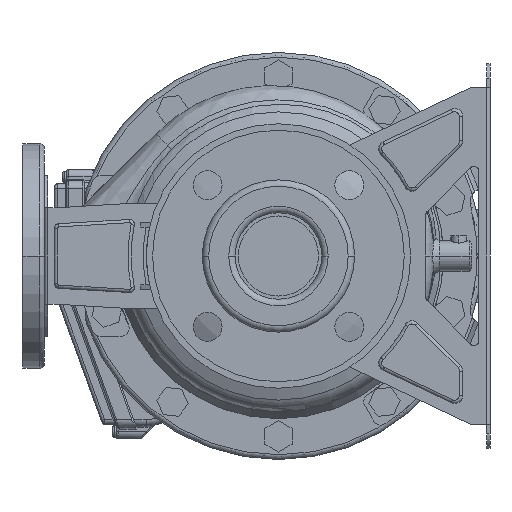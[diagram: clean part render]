
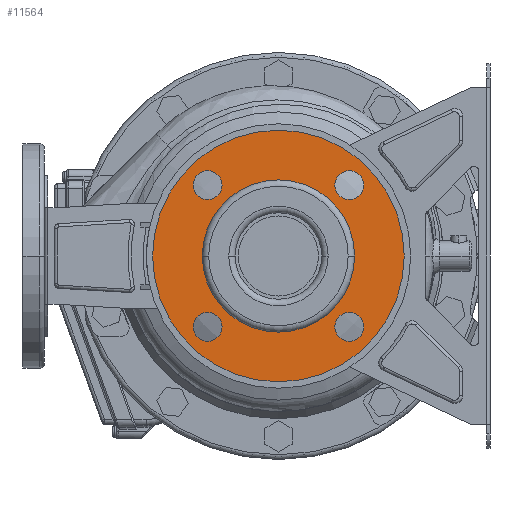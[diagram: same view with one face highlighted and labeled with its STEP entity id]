
A CAD part, left-side view. The second image highlights one B-rep face of the part: STEP entity #11564.
In plain terms, the highlighted planar face has unit normal (-1, 0, 0).
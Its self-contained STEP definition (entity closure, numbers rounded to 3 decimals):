
#10897=CARTESIAN_POINT('',(12.,0.,0.));
#10898=DIRECTION('',(-1.,0.,0.));
#10899=DIRECTION('',(0.,1.,0.));
#10900=AXIS2_PLACEMENT_3D('',#10897,#10898,#10899);
#10905=CARTESIAN_POINT('',(12.,0.,0.));
#10906=DIRECTION('',(1.,0.,0.));
#10907=DIRECTION('',(0.,1.,0.));
#10908=AXIS2_PLACEMENT_3D('',#10905,#10906,#10907);
#10913=CARTESIAN_POINT('',(12.,-44.194,44.194));
#10914=DIRECTION('',(1.,0.,0.));
#10915=DIRECTION('',(0.,1.,0.));
#10916=AXIS2_PLACEMENT_3D('',#10913,#10914,#10915);
#10921=CARTESIAN_POINT('',(12.,-44.194,44.194));
#10922=DIRECTION('',(1.,0.,0.));
#10923=DIRECTION('',(0.,-1.,0.));
#10924=AXIS2_PLACEMENT_3D('',#10921,#10922,#10923);
#10929=CARTESIAN_POINT('',(12.,-44.194,-44.194));
#10930=DIRECTION('',(1.,0.,0.));
#10931=DIRECTION('',(0.,0.,1.));
#10932=AXIS2_PLACEMENT_3D('',#10929,#10930,#10931);
#10937=CARTESIAN_POINT('',(12.,-44.194,-44.194));
#10938=DIRECTION('',(1.,0.,0.));
#10939=DIRECTION('',(0.,0.,-1.));
#10940=AXIS2_PLACEMENT_3D('',#10937,#10938,#10939);
#10945=CARTESIAN_POINT('',(12.,44.194,-44.194));
#10946=DIRECTION('',(1.,0.,0.));
#10947=DIRECTION('',(0.,-1.,0.));
#10948=AXIS2_PLACEMENT_3D('',#10945,#10946,#10947);
#10953=CARTESIAN_POINT('',(12.,44.194,-44.194));
#10954=DIRECTION('',(1.,0.,0.));
#10955=DIRECTION('',(0.,1.,0.));
#10956=AXIS2_PLACEMENT_3D('',#10953,#10954,#10955);
#10961=CARTESIAN_POINT('',(12.,44.194,44.194));
#10962=DIRECTION('',(1.,0.,0.));
#10963=DIRECTION('',(0.,0.,-1.));
#10964=AXIS2_PLACEMENT_3D('',#10961,#10962,#10963);
#10969=CARTESIAN_POINT('',(12.,44.194,44.194));
#10970=DIRECTION('',(1.,0.,0.));
#10971=DIRECTION('',(0.,0.,1.));
#10972=AXIS2_PLACEMENT_3D('',#10969,#10970,#10971);
#10977=CARTESIAN_POINT('',(12.,0.,0.));
#10978=DIRECTION('',(1.,0.,0.));
#10979=DIRECTION('',(0.,1.,0.));
#10980=AXIS2_PLACEMENT_3D('',#10977,#10978,#10979);
#10999=CARTESIAN_POINT('',(12.,0.,0.));
#11000=DIRECTION('',(-1.,0.,0.));
#11001=DIRECTION('',(0.,1.,0.));
#11002=AXIS2_PLACEMENT_3D('',#10999,#11000,#11001);
#11164=CARTESIAN_POINT('',(12.,78.5,0.));
#11166=VERTEX_POINT('',#11164);
#11167=CARTESIAN_POINT('',(12.,47.5,0.));
#11169=VERTEX_POINT('',#11167);
#11196=CARTESIAN_POINT('',(12.,-78.5,0.));
#11198=VERTEX_POINT('',#11196);
#11199=CARTESIAN_POINT('',(12.,-47.5,0.));
#11201=VERTEX_POINT('',#11199);
#11211=CARTESIAN_POINT('',(12.,-35.194,44.194));
#11212=CARTESIAN_POINT('',(12.,-53.194,44.194));
#11213=VERTEX_POINT('',#11211);
#11214=VERTEX_POINT('',#11212);
#11219=CARTESIAN_POINT('',(12.,-44.194,-35.194));
#11220=CARTESIAN_POINT('',(12.,-44.194,-53.194));
#11221=VERTEX_POINT('',#11219);
#11222=VERTEX_POINT('',#11220);
#11227=CARTESIAN_POINT('',(12.,35.194,-44.194));
#11228=CARTESIAN_POINT('',(12.,53.194,-44.194));
#11229=VERTEX_POINT('',#11227);
#11230=VERTEX_POINT('',#11228);
#11235=CARTESIAN_POINT('',(12.,44.194,35.194));
#11236=CARTESIAN_POINT('',(12.,44.194,53.194));
#11237=VERTEX_POINT('',#11235);
#11238=VERTEX_POINT('',#11236);
#11525=CARTESIAN_POINT('',(12.,0.,0.));
#11526=DIRECTION('',(1.,0.,0.));
#11527=DIRECTION('',(0.,-1.,0.));
#11528=AXIS2_PLACEMENT_3D('',#11525,#11526,#11527);
#11529=PLANE('',#11528);
#11530=ORIENTED_EDGE('',*,*,#11518,.F.);
#11531=ORIENTED_EDGE('',*,*,#11507,.T.);
#11532=EDGE_LOOP('',(#11530,#11531));
#11533=FACE_OUTER_BOUND('',#11532,.F.);
#11535=ORIENTED_EDGE('',*,*,#11534,.F.);
#11537=ORIENTED_EDGE('',*,*,#11536,.T.);
#11538=EDGE_LOOP('',(#11535,#11537));
#11539=FACE_BOUND('',#11538,.F.);
#11541=ORIENTED_EDGE('',*,*,#11540,.F.);
#11543=ORIENTED_EDGE('',*,*,#11542,.F.);
#11544=EDGE_LOOP('',(#11541,#11543));
#11545=FACE_BOUND('',#11544,.F.);
#11547=ORIENTED_EDGE('',*,*,#11546,.F.);
#11549=ORIENTED_EDGE('',*,*,#11548,.F.);
#11550=EDGE_LOOP('',(#11547,#11549));
#11551=FACE_BOUND('',#11550,.F.);
#11553=ORIENTED_EDGE('',*,*,#11552,.F.);
#11555=ORIENTED_EDGE('',*,*,#11554,.F.);
#11556=EDGE_LOOP('',(#11553,#11555));
#11557=FACE_BOUND('',#11556,.F.);
#11559=ORIENTED_EDGE('',*,*,#11558,.F.);
#11561=ORIENTED_EDGE('',*,*,#11560,.F.);
#11562=EDGE_LOOP('',(#11559,#11561));
#11563=FACE_BOUND('',#11562,.F.);
#10901=CIRCLE('',#10900,78.5);
#10909=CIRCLE('',#10908,78.5);
#10917=CIRCLE('',#10916,9.);
#10925=CIRCLE('',#10924,9.);
#10933=CIRCLE('',#10932,9.);
#10941=CIRCLE('',#10940,9.);
#10949=CIRCLE('',#10948,9.);
#10957=CIRCLE('',#10956,9.);
#10965=CIRCLE('',#10964,9.);
#10973=CIRCLE('',#10972,9.);
#10981=CIRCLE('',#10980,47.5);
#11003=CIRCLE('',#11002,47.5);
#11507=EDGE_CURVE('',#11166,#11198,#10909,.T.);
#11518=EDGE_CURVE('',#11166,#11198,#10901,.T.);
#11534=EDGE_CURVE('',#11169,#11201,#10981,.T.);
#11536=EDGE_CURVE('',#11169,#11201,#11003,.T.);
#11540=EDGE_CURVE('',#11213,#11214,#10917,.T.);
#11542=EDGE_CURVE('',#11214,#11213,#10925,.T.);
#11546=EDGE_CURVE('',#11221,#11222,#10933,.T.);
#11548=EDGE_CURVE('',#11222,#11221,#10941,.T.);
#11552=EDGE_CURVE('',#11229,#11230,#10949,.T.);
#11554=EDGE_CURVE('',#11230,#11229,#10957,.T.);
#11558=EDGE_CURVE('',#11237,#11238,#10965,.T.);
#11560=EDGE_CURVE('',#11238,#11237,#10973,.T.);
#11564=ADVANCED_FACE('',(#11533,#11539,#11545,#11551,#11557,#11563),#11529,.F.);
